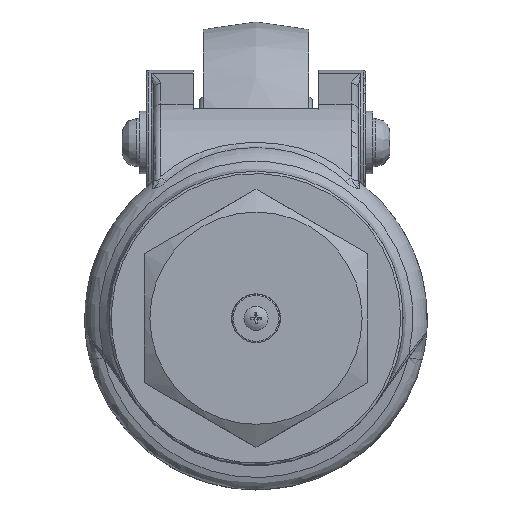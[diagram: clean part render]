
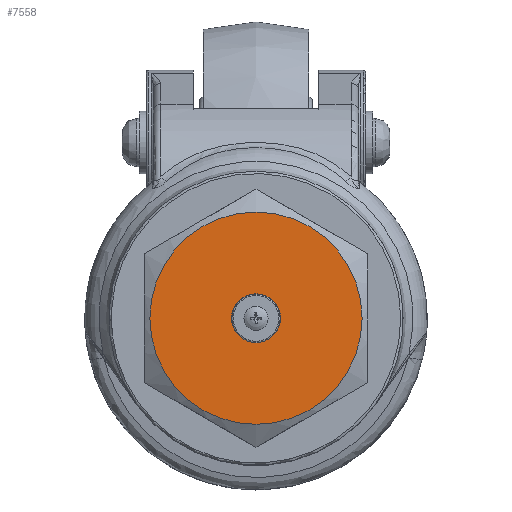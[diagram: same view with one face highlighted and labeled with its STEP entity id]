
A CAD part, top view. The second image highlights one B-rep face of the part: STEP entity #7558.
In plain terms, the highlighted planar face has unit normal (0, 0, 1).
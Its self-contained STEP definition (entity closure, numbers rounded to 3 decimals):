
#7024=CARTESIAN_POINT('',(-62.704,-3.767,73.873));
#7025=VERTEX_POINT('',#7024);
#7026=CARTESIAN_POINT('',(-65.23,0.609,73.873));
#7027=DIRECTION('',(0.0,0.0,-1.0));
#7028=DIRECTION('',(0.5,-0.866,0.0));
#7029=AXIS2_PLACEMENT_3D('',#7026,#7027,#7028);
#7030=CIRCLE('',#7029,5.053);
#7031=EDGE_CURVE('',#7025,#7025,#7030,.T.);
#7535=CARTESIAN_POINT('',(-76.23,19.662,73.873));
#7536=VERTEX_POINT('',#7535);
#7537=CARTESIAN_POINT('',(-65.23,0.609,73.873));
#7538=DIRECTION('',(0.0,0.0,-1.));
#7539=DIRECTION('',(0.5,-0.866,0.0));
#7540=AXIS2_PLACEMENT_3D('',#7537,#7538,#7539);
#7541=CIRCLE('',#7540,22.);
#7542=EDGE_CURVE('',#7536,#7536,#7541,.T.);
#7547=CARTESIAN_POINT('',(-65.23,0.609,73.873));
#7548=DIRECTION('',(0.0,0.0,1.0));
#7549=DIRECTION('',(1.0,0.0,0.0));
#7550=AXIS2_PLACEMENT_3D('',#7547,#7548,#7549);
#7551=PLANE('',#7550);
#7552=ORIENTED_EDGE('',*,*,#7542,.F.);
#7553=EDGE_LOOP('',(#7552));
#7554=FACE_OUTER_BOUND('',#7553,.T.);
#7555=ORIENTED_EDGE('',*,*,#7031,.T.);
#7556=EDGE_LOOP('',(#7555));
#7557=FACE_BOUND('',#7556,.T.);
#7558=ADVANCED_FACE('',(#7554,#7557),#7551,.T.);
